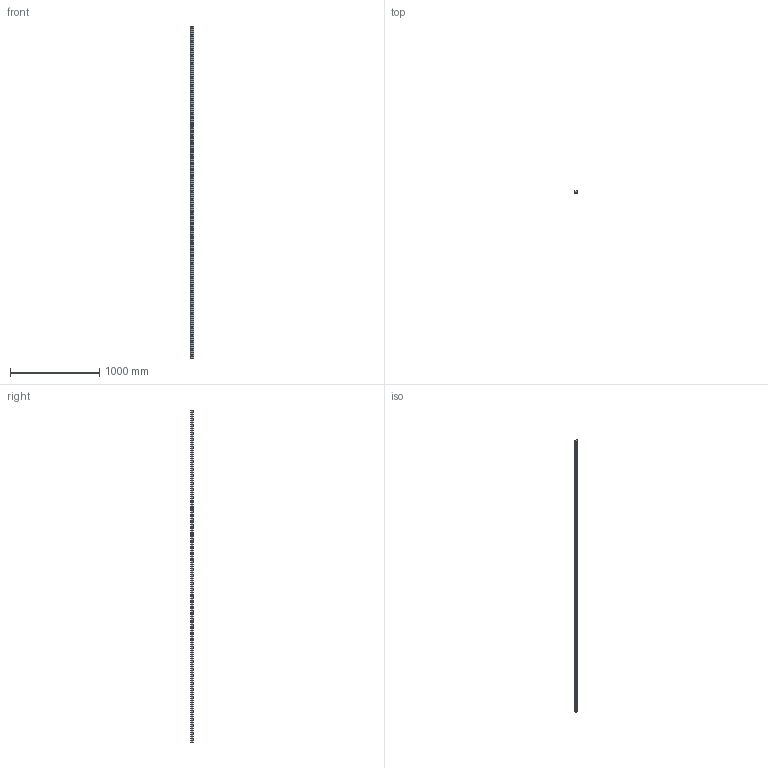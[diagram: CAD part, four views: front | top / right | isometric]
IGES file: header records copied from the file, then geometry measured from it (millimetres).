
Start section: SolidWorks IGES file using analytic representation for surfaces
Global section: file name: C:\Users\IanO\Desktop\Temp File\GENERAL\L1016_v2\L1016.RF35_v2\L1016.RF35_v2_20190612_IGES\L1016.RF35-3720.igs; native system: SolidWorks 2017; preprocessor: SolidWorks 2017; author: IanO; date: 190613.173432; units: millimetre
Bounding box: 34 x 26 x 3720 mm (x, y, z)
Surface area: 484142.4 mm2 (no closed solid volume)
Topology: 0 solids, 0 shells, 355 faces, 5808 edges, 5714 vertices
Faces by surface type: revolution 286, bspline 69
